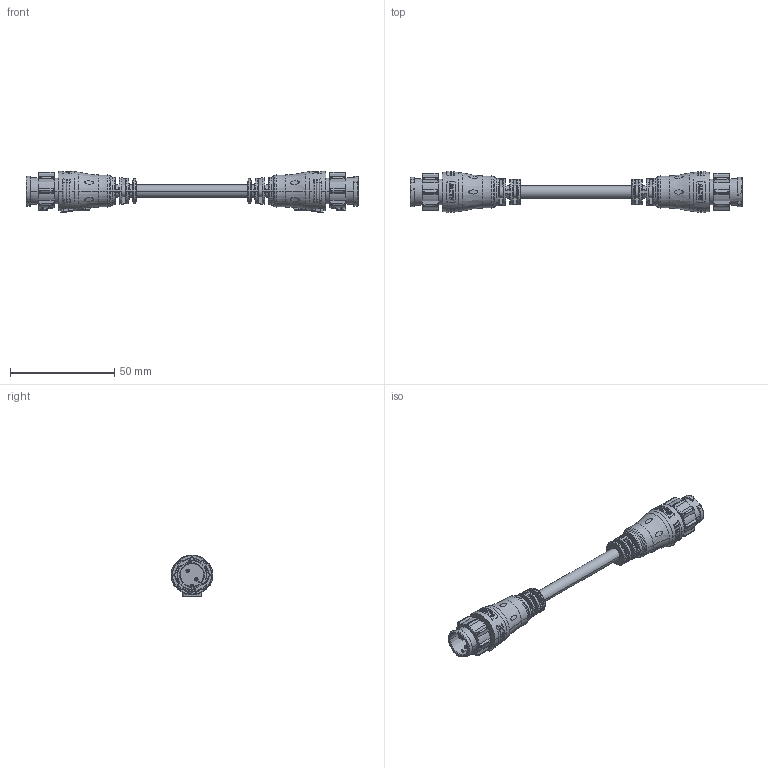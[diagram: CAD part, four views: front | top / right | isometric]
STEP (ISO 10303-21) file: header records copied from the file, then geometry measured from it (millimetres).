
FILE_DESCRIPTION((''),'2;1');
FILE_NAME('AB-BB02ML-BBML-QDXXX_SW0001','2021-10-14T',('L050004'),(''),'PRO/ENGINEER BY PARAMETRIC TECHNOLOGY CORPORATION, 2017170','PRO/ENGINEER BY PARAMETRIC TECHNOLOGY CORPORATION, 2017170','');
FILE_SCHEMA(('CONFIG_CONTROL_DESIGN'));
Products named in the file (1): AB-BB02ML-BBML-QDXXX_SW0001
Bounding box: 159.6 x 20.09 x 20.07 mm (x, y, z)
Volume: 19237.5 mm3; surface area: 9596 mm2
Topology: 1 solids, 2 shells, 1260 faces, 3318 edges, 2130 vertices
Faces by surface type: plane 426, bspline 270, cylinder 236, extrusion 148, torus 76, revolution 58, cone 40, sphere 6
Entity records: 58366 total; most frequent: CARTESIAN_POINT 30283, ORIENTED_EDGE 6636, DIRECTION 4558, EDGE_CURVE 3318, VERTEX_POINT 2130, AXIS2_PLACEMENT_3D 1620, B_SPLINE_CURVE_WITH_KNOTS 1576, EDGE_LOOP 1328
